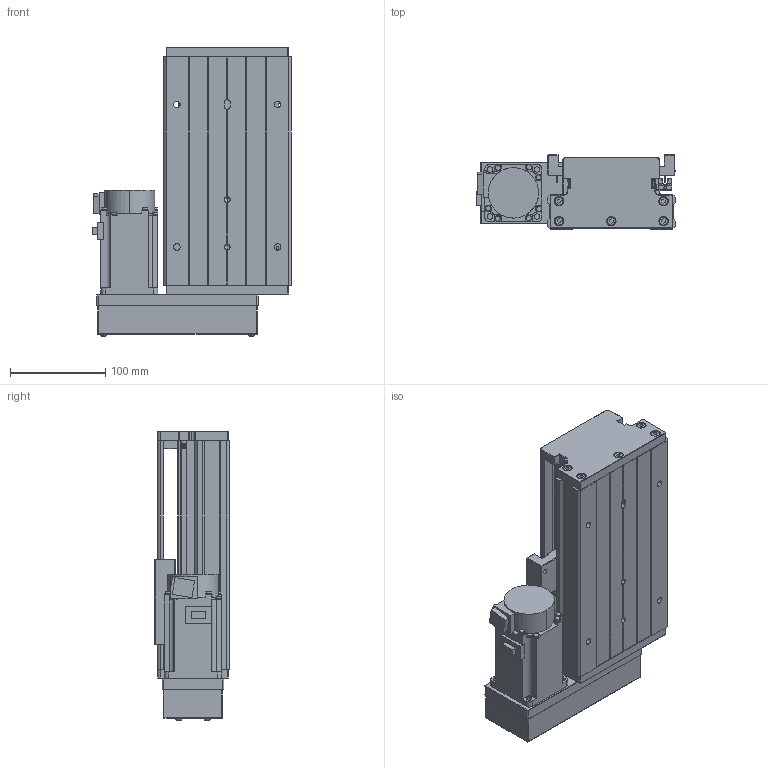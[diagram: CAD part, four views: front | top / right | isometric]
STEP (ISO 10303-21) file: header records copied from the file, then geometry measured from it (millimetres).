
FILE_DESCRIPTION (( 'STEP AP203' ), '1' );
FILE_NAME ('KTH130-100-BL-M40-C4.step', '2023-06-30T03:57:05', ( '微软用户' ), ( '微软中国' ), 'SwSTEP 2.0', 'SolidWorks 2020', '' );
FILE_SCHEMA (( 'CONFIG_CONTROL_DESIGN' ));
Length unit declared in the file: millimetre
Products named in the file (19): GBT70.1 M5℅16; す晦芛蹟隊 M3℅5; GBT 70.2-M3¡Á5_M3¡Á6; GBT 70.3-M3℅8; GTH14-001_100; CTHA60-017; HG-KN43J-S100; KTH130-002_KTH130-002; EE_SX911P_R; GBT 70.2-M4¡Á35_M4¡Á35; KTH130-004; CTHA60-016; GTH14-015-2_CTHA86-015-2; KTH130-005; GBT 70.1-M3℅5; GTH14-033; GB1155-6X6; GBT77-2000 M3×3; KTH130-100-BL-M40-C4
Assembly tree (53 placements, depth 2):
  KTH130-100-BL-M40-C4
    GTH14-001_100
    KTH130-002_KTH130-002
    KTH130-004
    KTH130-005
    GB1155-6X6  x2
    GBT70.1 M5℅16  x10
    GBT 70.2-M3¡Á5_M3¡Á6  x4
    CTHA60-017  x3
    EE_SX911P_R  x3
    CTHA60-016  x2
    GBT 70.1-M3℅5  x6
    GBT77-2000 M3×3  x6
    す晦芛蹟隊 M3℅5  x2
    GBT 70.3-M3℅8  x4
    HG-KN43J-S100
    GBT 70.2-M4¡Á35_M4¡Á35  x4
    GTH14-015-2_CTHA86-015-2
    GTH14-033
Bounding box: 209.3 x 78 x 304.2 mm (x, y, z)
Volume: 2085417.2 mm3; surface area: 404014.9 mm2
Topology: 56 solids, 56 shells, 2193 faces, 5294 edges, 3294 vertices
Faces by surface type: plane 1191, cylinder 588, cone 290, torus 100, sphere 24
Entity records: 39634 total; most frequent: CARTESIAN_POINT 8484, DIRECTION 5859, ORIENTED_EDGE 5788, EDGE_CURVE 2894, AXIS2_PLACEMENT_3D 2000, LINE 1859, VECTOR 1859, VERTEX_POINT 1847
